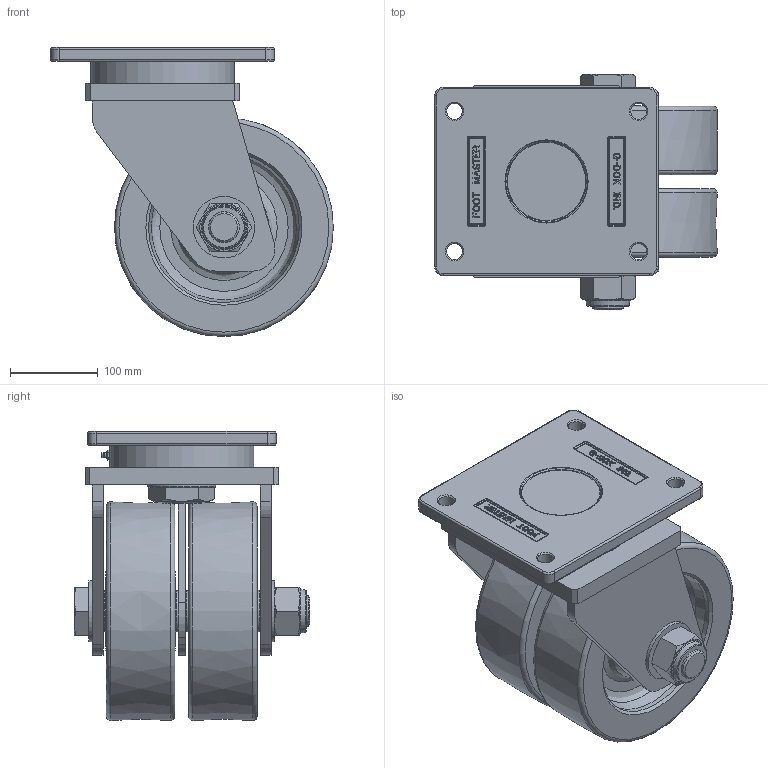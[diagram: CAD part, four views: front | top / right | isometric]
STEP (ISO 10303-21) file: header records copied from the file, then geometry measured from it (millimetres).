
FILE_DESCRIPTION((''),'2;1');
FILE_NAME('C:\Documents and Settings\Administrator\바탕 화면\3D STEP\GXTD-SERIES\GXTD-250\GXTD-250-SF.stp','2010-12-27T14:39:11',('Administrator'),(''),'Autodesk Inventor 2009','Autodesk Inventor 2009','');
FILE_SCHEMA(('AUTOMOTIVE_DESIGN { 1 0 10303 214 1 1 1 1 }'));
Length unit declared in the file: millimetre
Products named in the file (1): GXTD-250-SF
Bounding box: 322.21 x 269 x 329.71 mm (x, y, z)
Volume: 8711414 mm3; surface area: 924435.7 mm2
Topology: 12 solids, 12 shells, 731 faces, 1764 edges, 1138 vertices
Faces by surface type: plane 306, bspline 155, cylinder 127, cone 88, torus 55
Full cylindrical faces by diameter (mm): 6 x2, 18 x4, 35 x6, 35.3 x2, 35.5 x1, 38 x2, 47.334 x8, 48 x1, 48.5 x1, 49.8 x1, 50 x1, 59.666 x8, 60 x1, 64 x2, 68 x1, 70 x2, 72 x8, 78 x1, 80 x2, 96 x4, 109.6 x1, 110 x2, 112 x1, 145 x2, 148 x1, 153 x1, 154.2 x1, 164 x1, 165 x1, 170 x1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
Entity records: 21611 total; most frequent: CARTESIAN_POINT 6715, ORIENTED_EDGE 2892, DIRECTION 2745, EDGE_CURVE 1446, EDGE_LOOP 1062, VERTEX_POINT 1036, AXIS2_PLACEMENT_3D 1002, VECTOR 741
